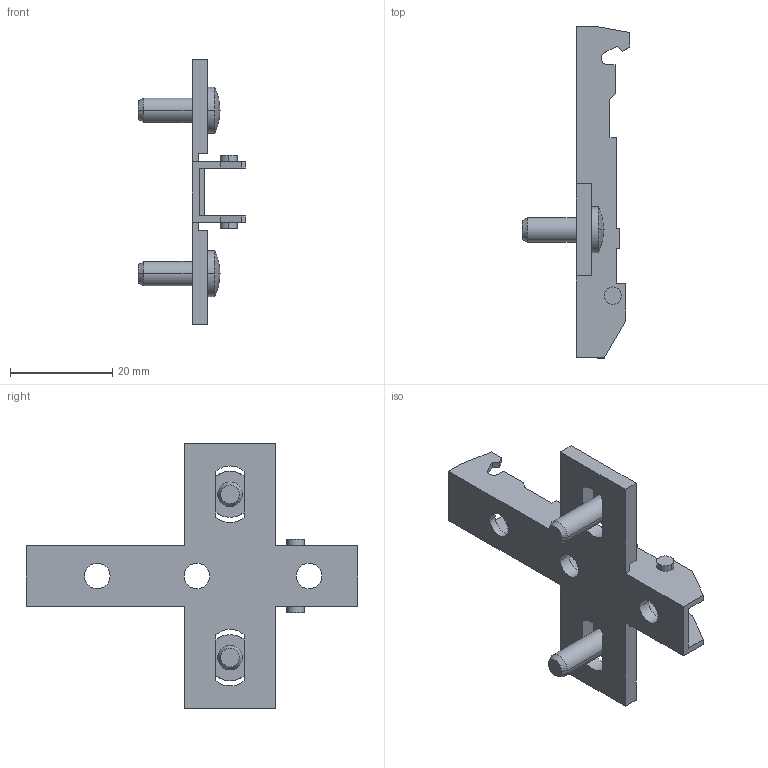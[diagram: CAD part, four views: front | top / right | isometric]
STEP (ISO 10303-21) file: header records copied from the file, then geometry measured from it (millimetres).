
FILE_DESCRIPTION (( 'STEP AP214' ), '1' );
FILE_NAME ('Eco Kreuzmontageplatte LR37_32_Euro_vorm. 13,5mm_H00.step', '2010-11-18T10:06:13', ( 'grass' ), ( '' ), 'SwSTEP 2.0', 'SolidWorks 2010', '' );
FILE_SCHEMA (( 'AUTOMOTIVE_DESIGN' ));
Length unit declared in the file: millimetre
Products named in the file (1): Eco Kreuzmontageplatte LR37_32_Euro_vorm. 13,5mm_H00
Bounding box: 21 x 65 x 52 mm (x, y, z)
Volume: 4746.2 mm3; surface area: 5891 mm2
Topology: 1 solids, 1 shells, 104 faces, 296 edges, 194 vertices
Faces by surface type: plane 70, cylinder 26, cone 4, sphere 4
Entity records: 3434 total; most frequent: CARTESIAN_POINT 595, ORIENTED_EDGE 592, DIRECTION 578, EDGE_CURVE 296, LINE 224, VECTOR 224, VERTEX_POINT 194, AXIS2_PLACEMENT_3D 177
